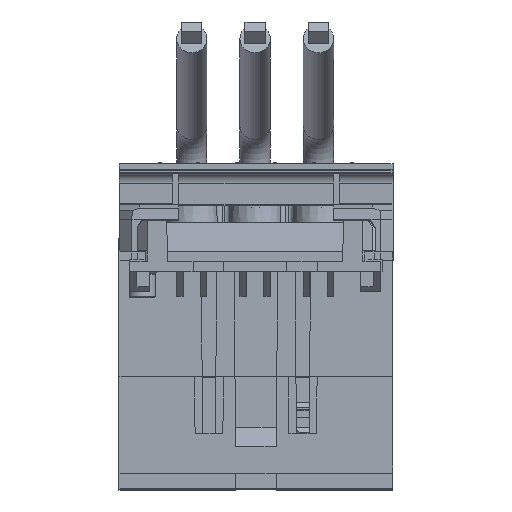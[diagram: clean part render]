
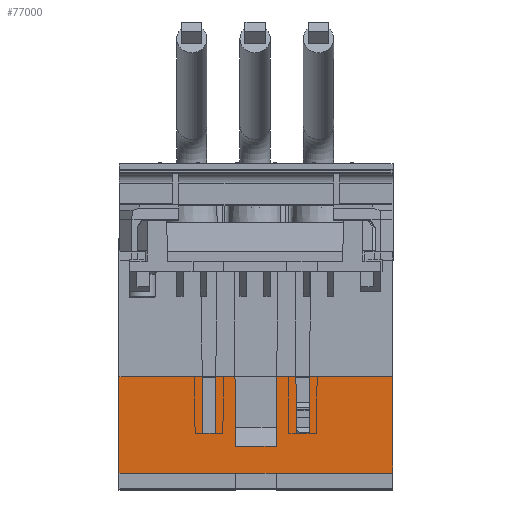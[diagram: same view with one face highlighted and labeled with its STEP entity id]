
A CAD part, top view. The second image highlights one B-rep face of the part: STEP entity #77000.
In plain terms, the highlighted planar face has unit normal (0, -0.009, 1).
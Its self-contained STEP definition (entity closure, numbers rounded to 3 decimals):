
#1800 = LINE ( 'NONE', #10304, #91443 ) ;
#2365 = LINE ( 'NONE', #9880, #51406 ) ;
#2367 = CARTESIAN_POINT ( 'NONE',  ( -27., 18.5, 200.2 ) ) ;
#2658 = EDGE_CURVE ( 'NONE', #76427, #90032, #67097, .T. ) ;
#4363 = CARTESIAN_POINT ( 'NONE',  ( -26., 18.5, 200.2 ) ) ;
#4881 = CARTESIAN_POINT ( 'NONE',  ( -4.122, -4.5, 199.999 ) ) ;
#5467 = LINE ( 'NONE', #16904, #104916 ) ;
#5479 = CARTESIAN_POINT ( 'NONE',  ( -4., -23.5, 199.833 ) ) ;
#7935 = CARTESIAN_POINT ( 'NONE',  ( -26., -15.7, 199.902 ) ) ;
#9880 = CARTESIAN_POINT ( 'NONE',  ( -7.722, 16.2, 200.18 ) ) ;
#10078 = CARTESIAN_POINT ( 'NONE',  ( -7.902, -4.5, 199.999 ) ) ;
#10220 = DIRECTION ( 'NONE',  ( -0.009, -1., -0.009 ) ) ;
#10304 = CARTESIAN_POINT ( 'NONE',  ( 4.303, 16.2, 200.18 ) ) ;
#11225 = CARTESIAN_POINT ( 'NONE',  ( 27., -23.5, 199.833 ) ) ;
#13118 = VECTOR ( 'NONE', #10220, 1000. ) ;
#13187 = ORIENTED_EDGE ( 'NONE', *, *, #58275, .T. ) ;
#13221 = ORIENTED_EDGE ( 'NONE', *, *, #29536, .T. ) ;
#13446 = VECTOR ( 'NONE', #71774, 1000. ) ;
#14309 = VERTEX_POINT ( 'NONE', #51478 ) ;
#16229 = VECTOR ( 'NONE', #20334, 1000. ) ;
#16266 = LINE ( 'NONE', #72948, #13446 ) ;
#16744 = ORIENTED_EDGE ( 'NONE', *, *, #64926, .F. ) ;
#16904 = CARTESIAN_POINT ( 'NONE',  ( -26., -4.5, 199.999 ) ) ;
#17076 = VERTEX_POINT ( 'NONE', #11225 ) ;
#18707 = EDGE_CURVE ( 'NONE', #28739, #42913, #16266, .T. ) ;
#19472 = VECTOR ( 'NONE', #49701, 1000. ) ;
#20334 = DIRECTION ( 'NONE',  ( 0., -1., -0.009 ) ) ;
#21389 = LINE ( 'NONE', #35198, #102644 ) ;
#23465 = CARTESIAN_POINT ( 'NONE',  ( -26., -23.5, 199.833 ) ) ;
#23918 = CARTESIAN_POINT ( 'NONE',  ( -26., -15.7, 199.902 ) ) ;
#26123 = EDGE_CURVE ( 'NONE', #74990, #96730, #94210, .T. ) ;
#26277 = EDGE_CURVE ( 'NONE', #82847, #14309, #21389, .T. ) ;
#27242 = CARTESIAN_POINT ( 'NONE',  ( -8., -15.7, 199.902 ) ) ;
#27504 = LINE ( 'NONE', #23918, #114375 ) ;
#27825 = CARTESIAN_POINT ( 'NONE',  ( 10.778, 16.2, 200.18 ) ) ;
#27873 = DIRECTION ( 'NONE',  ( -1., 0., 0. ) ) ;
#28569 = ORIENTED_EDGE ( 'NONE', *, *, #18707, .F. ) ;
#28739 = VERTEX_POINT ( 'NONE', #10078 ) ;
#29236 = DIRECTION ( 'NONE',  ( -0.009, 1., 0.009 ) ) ;
#29536 = EDGE_CURVE ( 'NONE', #74872, #48066, #96706, .T. ) ;
#33300 = DIRECTION ( 'NONE',  ( 1., 0., 0. ) ) ;
#33330 = DIRECTION ( 'NONE',  ( -1., 0., 0. ) ) ;
#35198 = CARTESIAN_POINT ( 'NONE',  ( -26., -18.18, 199.88 ) ) ;
#36364 = DIRECTION ( 'NONE',  ( -1., 0., 0. ) ) ;
#36439 = ORIENTED_EDGE ( 'NONE', *, *, #53960, .T. ) ;
#39807 = EDGE_CURVE ( 'NONE', #61530, #96730, #5467, .T. ) ;
#40490 = CARTESIAN_POINT ( 'NONE',  ( -27., -23.5, 199.833 ) ) ;
#42264 = CARTESIAN_POINT ( 'NONE',  ( 8., -15.7, 199.902 ) ) ;
#42913 = VERTEX_POINT ( 'NONE', #4881 ) ;
#44695 = LINE ( 'NONE', #23465, #91023 ) ;
#45070 = ORIENTED_EDGE ( 'NONE', *, *, #100261, .F. ) ;
#46246 = CARTESIAN_POINT ( 'NONE',  ( 7.902, -4.5, 199.999 ) ) ;
#48066 = VERTEX_POINT ( 'NONE', #5479 ) ;
#49027 = PLANE ( 'NONE',  #55268 ) ;
#49402 = DIRECTION ( 'NONE',  ( 0., -0.009, 1. ) ) ;
#49589 = CARTESIAN_POINT ( 'NONE',  ( -26., -4.5, 199.999 ) ) ;
#49701 = DIRECTION ( 'NONE',  ( -0.009, 1., 0.009 ) ) ;
#50154 = DIRECTION ( 'NONE',  ( -0.009, 1., 0.009 ) ) ;
#50755 = DIRECTION ( 'NONE',  ( 0., 1., 0.009 ) ) ;
#50863 = ORIENTED_EDGE ( 'NONE', *, *, #78443, .T. ) ;
#51406 = VECTOR ( 'NONE', #92109, 1000. ) ;
#51478 = CARTESIAN_POINT ( 'NONE',  ( -4.003, -18.18, 199.88 ) ) ;
#52223 = LINE ( 'NONE', #49589, #70409 ) ;
#53919 = ORIENTED_EDGE ( 'NONE', *, *, #61106, .T. ) ;
#53960 = EDGE_CURVE ( 'NONE', #61530, #82847, #1800, .T. ) ;
#54225 = VERTEX_POINT ( 'NONE', #92515 ) ;
#54739 = VECTOR ( 'NONE', #33300, 1000. ) ;
#55268 = AXIS2_PLACEMENT_3D ( 'NONE', #4363, #49402, #112078 ) ;
#55427 = ORIENTED_EDGE ( 'NONE', *, *, #39807, .F. ) ;
#57821 = VERTEX_POINT ( 'NONE', #112549 ) ;
#57911 = CARTESIAN_POINT ( 'NONE',  ( 4., -23.5, 199.833 ) ) ;
#58124 = ORIENTED_EDGE ( 'NONE', *, *, #93039, .T. ) ;
#58275 = EDGE_CURVE ( 'NONE', #76073, #76427, #88273, .T. ) ;
#58337 = EDGE_LOOP ( 'NONE', ( #45070, #58124, #13221, #50863, #53919, #105567, #16744, #106804, #107565, #66197, #55427, #36439, #89185, #97209, #28569, #87548, #13187, #111247 ) ) ;
#58797 = VECTOR ( 'NONE', #29236, 1000. ) ;
#61106 = EDGE_CURVE ( 'NONE', #90151, #17076, #87800, .T. ) ;
#61369 = EDGE_CURVE ( 'NONE', #28739, #76073, #2365, .T. ) ;
#61530 = VERTEX_POINT ( 'NONE', #67351 ) ;
#62466 = LINE ( 'NONE', #2367, #16229 ) ;
#64460 = VECTOR ( 'NONE', #27873, 1000. ) ;
#64926 = EDGE_CURVE ( 'NONE', #54225, #112065, #52223, .T. ) ;
#65073 = LINE ( 'NONE', #27825, #13118 ) ;
#66197 = ORIENTED_EDGE ( 'NONE', *, *, #26123, .T. ) ;
#66578 = EDGE_CURVE ( 'NONE', #14309, #42913, #103626, .T. ) ;
#67097 = LINE ( 'NONE', #86459, #19472 ) ;
#67351 = CARTESIAN_POINT ( 'NONE',  ( 4.122, -4.5, 199.999 ) ) ;
#70409 = VECTOR ( 'NONE', #93838, 1000. ) ;
#71774 = DIRECTION ( 'NONE',  ( 1., 0., 0. ) ) ;
#72948 = CARTESIAN_POINT ( 'NONE',  ( -26., -4.5, 199.999 ) ) ;
#74872 = VERTEX_POINT ( 'NONE', #40490 ) ;
#74990 = VERTEX_POINT ( 'NONE', #76203 ) ;
#75897 = CARTESIAN_POINT ( 'NONE',  ( 4.003, -18.18, 199.88 ) ) ;
#76073 = VERTEX_POINT ( 'NONE', #27242 ) ;
#76203 = CARTESIAN_POINT ( 'NONE',  ( 8., -15.7, 199.902 ) ) ;
#76427 = VERTEX_POINT ( 'NONE', #103902 ) ;
#76433 = CARTESIAN_POINT ( 'NONE',  ( 4., -23.5, 199.833 ) ) ;
#77000 = ADVANCED_FACE ( 'NONE', ( #84218 ), #49027, .T. ) ;
#78443 = EDGE_CURVE ( 'NONE', #48066, #90151, #44695, .T. ) ;
#82334 = CARTESIAN_POINT ( 'NONE',  ( 27., -4.5, 199.999 ) ) ;
#82847 = VERTEX_POINT ( 'NONE', #75897 ) ;
#84218 = FACE_OUTER_BOUND ( 'NONE', #58337, .T. ) ;
#86459 = CARTESIAN_POINT ( 'NONE',  ( -10.5, -15.7, 199.902 ) ) ;
#87548 = ORIENTED_EDGE ( 'NONE', *, *, #61369, .T. ) ;
#87800 = LINE ( 'NONE', #97603, #114454 ) ;
#88273 = LINE ( 'NONE', #7935, #64460 ) ;
#89185 = ORIENTED_EDGE ( 'NONE', *, *, #26277, .T. ) ;
#90032 = VERTEX_POINT ( 'NONE', #101401 ) ;
#90076 = VECTOR ( 'NONE', #50154, 1000. ) ;
#90151 = VERTEX_POINT ( 'NONE', #57911 ) ;
#91023 = VECTOR ( 'NONE', #96712, 1000. ) ;
#91283 = CARTESIAN_POINT ( 'NONE',  ( -27., -4.5, 199.999 ) ) ;
#91373 = DIRECTION ( 'NONE',  ( -0.009, -1., -0.009 ) ) ;
#91443 = VECTOR ( 'NONE', #91373, 1000. ) ;
#92109 = DIRECTION ( 'NONE',  ( -0.009, -1., -0.009 ) ) ;
#92515 = CARTESIAN_POINT ( 'NONE',  ( 10.598, -4.5, 199.999 ) ) ;
#93039 = EDGE_CURVE ( 'NONE', #102390, #74872, #62466, .T. ) ;
#93516 = VECTOR ( 'NONE', #108811, 1000. ) ;
#93838 = DIRECTION ( 'NONE',  ( 1., 0., 0. ) ) ;
#94210 = LINE ( 'NONE', #42264, #90076 ) ;
#94445 = EDGE_CURVE ( 'NONE', #17076, #112065, #104237, .T. ) ;
#96317 = LINE ( 'NONE', #100998, #93516 ) ;
#96706 = LINE ( 'NONE', #76433, #54739 ) ;
#96712 = DIRECTION ( 'NONE',  ( 1., 0., 0. ) ) ;
#96730 = VERTEX_POINT ( 'NONE', #46246 ) ;
#97209 = ORIENTED_EDGE ( 'NONE', *, *, #66578, .T. ) ;
#97603 = CARTESIAN_POINT ( 'NONE',  ( -26., -23.5, 199.833 ) ) ;
#100261 = EDGE_CURVE ( 'NONE', #102390, #90032, #96317, .T. ) ;
#100998 = CARTESIAN_POINT ( 'NONE',  ( -26., -4.5, 199.999 ) ) ;
#101401 = CARTESIAN_POINT ( 'NONE',  ( -10.598, -4.5, 199.999 ) ) ;
#101473 = VECTOR ( 'NONE', #50755, 1000. ) ;
#102390 = VERTEX_POINT ( 'NONE', #91283 ) ;
#102644 = VECTOR ( 'NONE', #36364, 1000. ) ;
#103238 = CARTESIAN_POINT ( 'NONE',  ( 27., 18.5, 200.2 ) ) ;
#103626 = LINE ( 'NONE', #110684, #58797 ) ;
#103902 = CARTESIAN_POINT ( 'NONE',  ( -10.5, -15.7, 199.902 ) ) ;
#104237 = LINE ( 'NONE', #103238, #101473 ) ;
#104916 = VECTOR ( 'NONE', #106980, 1000. ) ;
#105567 = ORIENTED_EDGE ( 'NONE', *, *, #94445, .T. ) ;
#106804 = ORIENTED_EDGE ( 'NONE', *, *, #110218, .T. ) ;
#106980 = DIRECTION ( 'NONE',  ( 1., 0., 0. ) ) ;
#107565 = ORIENTED_EDGE ( 'NONE', *, *, #108452, .T. ) ;
#108452 = EDGE_CURVE ( 'NONE', #57821, #74990, #27504, .T. ) ;
#108811 = DIRECTION ( 'NONE',  ( 1., 0., 0. ) ) ;
#110218 = EDGE_CURVE ( 'NONE', #54225, #57821, #65073, .T. ) ;
#110684 = CARTESIAN_POINT ( 'NONE',  ( -4.003, -18.18, 199.88 ) ) ;
#111247 = ORIENTED_EDGE ( 'NONE', *, *, #2658, .T. ) ;
#112065 = VERTEX_POINT ( 'NONE', #82334 ) ;
#112078 = DIRECTION ( 'NONE',  ( 0., -1., -0.009 ) ) ;
#112549 = CARTESIAN_POINT ( 'NONE',  ( 10.5, -15.7, 199.902 ) ) ;
#114375 = VECTOR ( 'NONE', #33330, 1000. ) ;
#114454 = VECTOR ( 'NONE', #116052, 1000. ) ;
#116052 = DIRECTION ( 'NONE',  ( 1., 0., 0. ) ) ;
